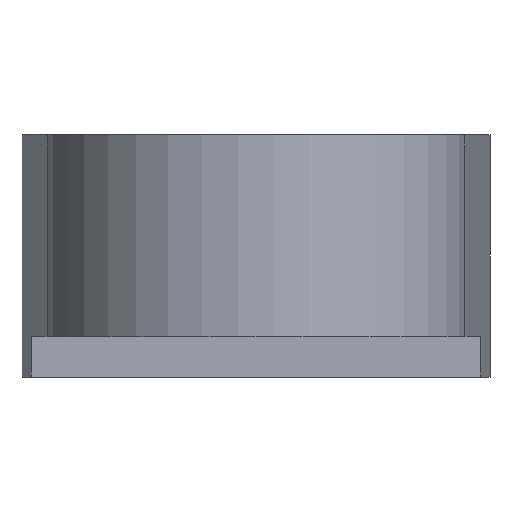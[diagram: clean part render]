
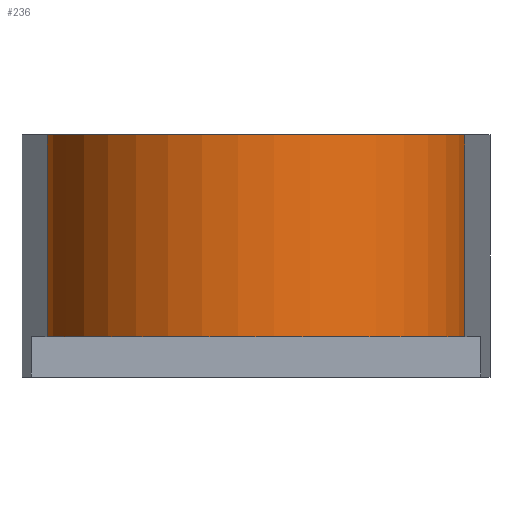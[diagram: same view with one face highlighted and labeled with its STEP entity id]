
A CAD part, left-side view. The second image highlights one B-rep face of the part: STEP entity #236.
In plain terms, the highlighted cylindrical face has radius 26 mm (diameter 52 mm), a partial arc.
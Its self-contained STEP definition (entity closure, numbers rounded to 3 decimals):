
#145=CYLINDRICAL_SURFACE('',#914,26.);
#168=CIRCLE('',#864,26.);
#195=CIRCLE('',#913,26.);
#236=ADVANCED_FACE('',(#285),#145,.T.);
#285=FACE_OUTER_BOUND('',#342,.T.);
#342=EDGE_LOOP('',(#520,#521,#522,#523));
#520=ORIENTED_EDGE('',*,*,#717,.F.);
#521=ORIENTED_EDGE('',*,*,#716,.T.);
#522=ORIENTED_EDGE('',*,*,#667,.F.);
#523=ORIENTED_EDGE('',*,*,#709,.F.);
#585=VERTEX_POINT('',#1251);
#586=VERTEX_POINT('',#1253);
#615=VERTEX_POINT('',#1342);
#619=VERTEX_POINT('',#1354);
#667=EDGE_CURVE('',#585,#586,#168,.T.);
#709=EDGE_CURVE('',#615,#585,#766,.T.);
#716=EDGE_CURVE('',#619,#586,#773,.T.);
#717=EDGE_CURVE('',#619,#615,#195,.T.);
#766=LINE('',#1343,#816);
#773=LINE('',#1356,#823);
#816=VECTOR('',#1122,1.);
#823=VECTOR('',#1133,1.);
#864=AXIS2_PLACEMENT_3D('',#1252,#1015,#1016);
#913=AXIS2_PLACEMENT_3D('',#1358,#1136,#1137);
#914=AXIS2_PLACEMENT_3D('',#1359,#1138,#1139);
#1015=DIRECTION('',(0.,0.,1.));
#1016=DIRECTION('',(1.,0.,0.));
#1122=DIRECTION('',(0.,0.,1.));
#1133=DIRECTION('',(0.,0.,1.));
#1136=DIRECTION('',(0.,0.,-1.));
#1137=DIRECTION('',(1.,0.,0.));
#1138=DIRECTION('',(0.,0.,1.));
#1139=DIRECTION('',(-1.,0.,0.));
#1251=CARTESIAN_POINT('',(-2.342,25.894,30.));
#1252=CARTESIAN_POINT('',(0.,0.,30.));
#1253=CARTESIAN_POINT('',(-2.342,-25.894,30.));
#1342=CARTESIAN_POINT('',(-2.342,25.894,5.));
#1343=CARTESIAN_POINT('',(-2.342,25.894,0.));
#1354=CARTESIAN_POINT('',(-2.342,-25.894,5.));
#1356=CARTESIAN_POINT('',(-2.342,-25.894,0.));
#1358=CARTESIAN_POINT('',(0.,0.,5.));
#1359=CARTESIAN_POINT('',(0.,0.,0.));
